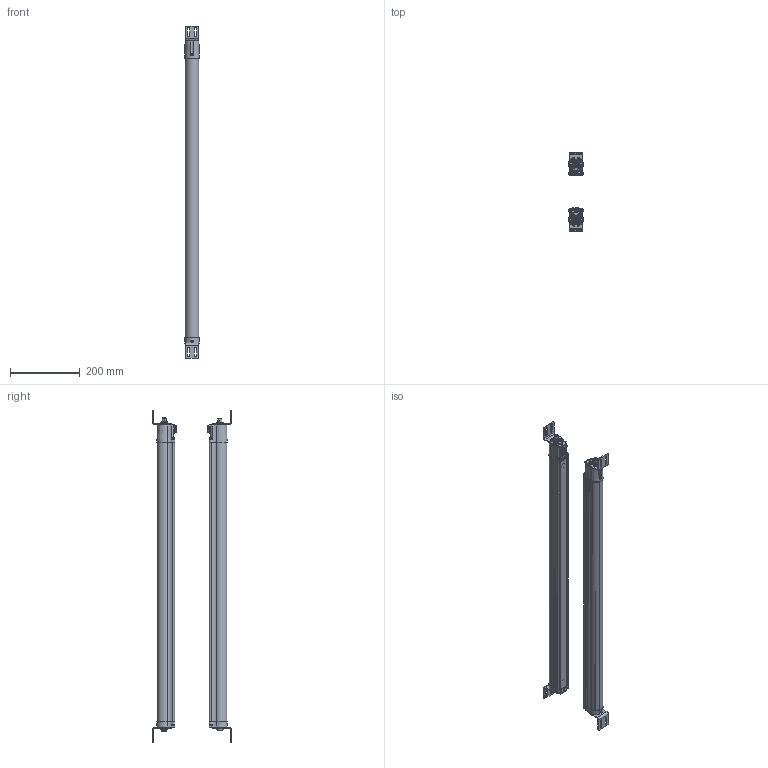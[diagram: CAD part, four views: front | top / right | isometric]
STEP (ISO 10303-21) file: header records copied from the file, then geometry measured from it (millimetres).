
FILE_DESCRIPTION((''),'2;1');
FILE_NAME('440L-C4J0800YD_SW0010','2024-07-29T15:40:56',('AKhan24'),('Rockwell Automation'),'CREO PARAMETRIC BY PTC INC, 2022424','CREO PARAMETRIC BY PTC INC, 2022424','');
FILE_SCHEMA(('AUTOMOTIVE_DESIGN { 1 0 10303 214 1 1 1 1 }'));
Length unit declared in the file: millimetre
Products named in the file (1): 440L-C4J0800YD_SW0010
Bounding box: 42.01 x 224.17 x 952 mm (x, y, z)
Volume: 877995.2 mm3; surface area: 754298.9 mm2
Topology: 2 solids, 2 shells, 3734 faces, 9685 edges, 6090 vertices
Faces by surface type: plane 1454, cylinder 1202, torus 429, cone 401, bspline 152, sphere 96
Entity records: 206531 total; most frequent: CARTESIAN_POINT 58701, DIRECTION 19959, ORIENTED_EDGE 19362, PRESENTATION_STYLE_ASSIGNMENT 13417, STYLED_ITEM 9683, CURVE_STYLE 9681, EDGE_CURVE 9681, AXIS2_PLACEMENT_3D 7835
